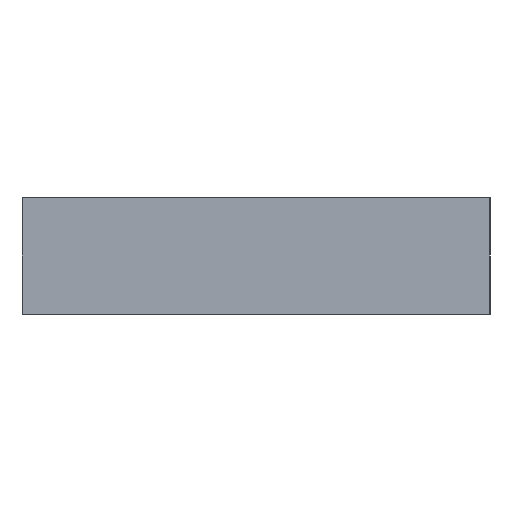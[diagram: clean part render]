
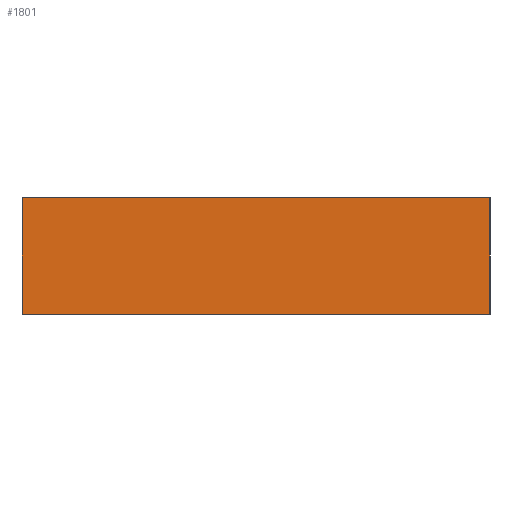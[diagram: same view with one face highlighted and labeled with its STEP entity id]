
A CAD part, left-side view. The second image highlights one B-rep face of the part: STEP entity #1801.
In plain terms, the highlighted planar face has unit normal (-1, 0, 0).
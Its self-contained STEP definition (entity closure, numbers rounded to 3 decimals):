
#193 = DIRECTION ( 'NONE',  ( 0., 0., -1. ) ) ;
#198 = CARTESIAN_POINT ( 'NONE',  ( -30., 20., 10. ) ) ;
#199 = DIRECTION ( 'NONE',  ( 0., 0., -1. ) ) ;
#213 = CARTESIAN_POINT ( 'NONE',  ( -30., -20., 10. ) ) ;
#225 = CARTESIAN_POINT ( 'NONE',  ( -30., 20., 0. ) ) ;
#230 = DIRECTION ( 'NONE',  ( 0., -1., 0. ) ) ;
#819 = ORIENTED_EDGE ( 'NONE', *, *, #1681, .T. ) ;
#825 = ORIENTED_EDGE ( 'NONE', *, *, #1673, .T. ) ;
#830 = ORIENTED_EDGE ( 'NONE', *, *, #1678, .F. ) ;
#833 = ORIENTED_EDGE ( 'NONE', *, *, #1601, .F. ) ;
#1344 = VERTEX_POINT ( 'NONE', #4585 ) ;
#1390 = VERTEX_POINT ( 'NONE', #4544 ) ;
#1441 = VERTEX_POINT ( 'NONE', #4655 ) ;
#1481 = VERTEX_POINT ( 'NONE', #4685 ) ;
#1601 = EDGE_CURVE ( 'NONE', #1441, #1481, #2961, .T. ) ;
#1673 = EDGE_CURVE ( 'NONE', #1344, #1390, #3070, .T. ) ;
#1678 = EDGE_CURVE ( 'NONE', #1481, #1390, #3071, .T. ) ;
#1681 = EDGE_CURVE ( 'NONE', #1441, #1344, #3079, .T. ) ;
#1801 = ADVANCED_FACE ( 'NONE', ( #2905 ), #1926, .F. ) ;
#1926 = PLANE ( 'NONE',  #5655 ) ;
#1943 = DIRECTION ( 'NONE',  ( 1., 0., 0. ) ) ;
#1946 = DIRECTION ( 'NONE',  ( 0., 1., 0. ) ) ;
#1955 = CARTESIAN_POINT ( 'NONE',  ( -30., 20., 10. ) ) ;
#2905 = FACE_OUTER_BOUND ( 'NONE', #5296, .T. ) ;
#2961 = LINE ( 'NONE', #4100, #2962 ) ;
#2962 = VECTOR ( 'NONE', #4122, 1000. ) ;
#3070 = LINE ( 'NONE', #225, #3076 ) ;
#3071 = LINE ( 'NONE', #213, #3084 ) ;
#3075 = VECTOR ( 'NONE', #199, 1000. ) ;
#3076 = VECTOR ( 'NONE', #230, 1000. ) ;
#3079 = LINE ( 'NONE', #198, #3075 ) ;
#3084 = VECTOR ( 'NONE', #193, 1000. ) ;
#4100 = CARTESIAN_POINT ( 'NONE',  ( -30., 20., 10. ) ) ;
#4122 = DIRECTION ( 'NONE',  ( 0., -1., 0. ) ) ;
#4544 = CARTESIAN_POINT ( 'NONE',  ( -30., -20., 0. ) ) ;
#4585 = CARTESIAN_POINT ( 'NONE',  ( -30., 20., 0. ) ) ;
#4655 = CARTESIAN_POINT ( 'NONE',  ( -30., 20., 10. ) ) ;
#4685 = CARTESIAN_POINT ( 'NONE',  ( -30., -20., 10. ) ) ;
#5296 = EDGE_LOOP ( 'NONE', ( #825, #830, #833, #819 ) ) ;
#5655 = AXIS2_PLACEMENT_3D ( 'NONE', #1955, #1943, #1946 ) ;
